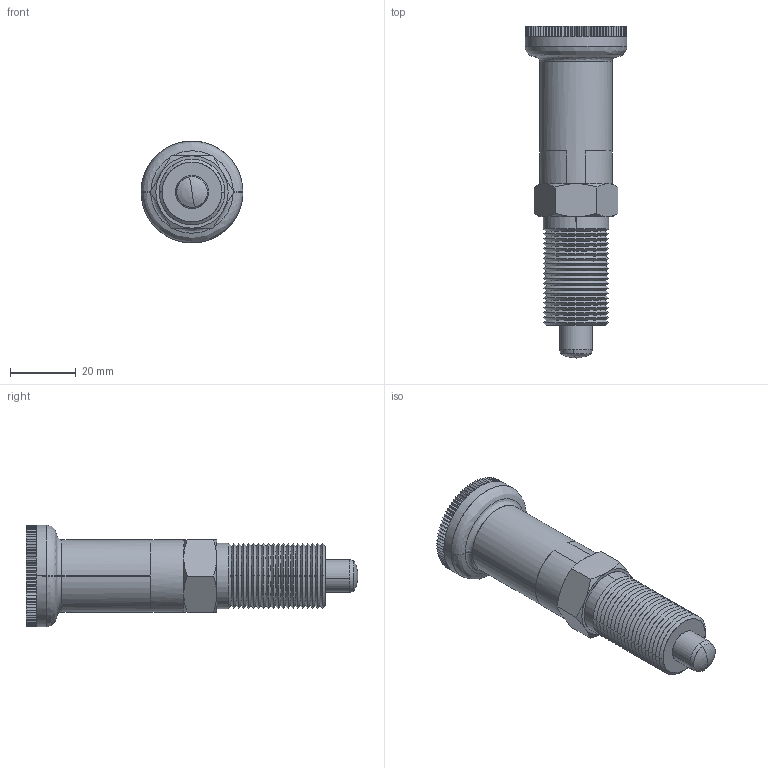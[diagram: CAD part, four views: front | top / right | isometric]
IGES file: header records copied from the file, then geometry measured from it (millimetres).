
Start section: SolidWorks IGES file using analytic representation for surfaces
Global section: file name: C:\Documents and Settings\IANO\My Documents\Wix and Auto CAD Work\CAD Models\Parametric Models\Wix Models\30000\32712_v2\32712_v2_20160414_IGES\32712.W0710.igs; native system: SolidWorks 2009; preprocessor: SolidWorks 2009; author: IANO; date: 160630.185015; units: millimetre
Bounding box: 31 x 101 x 31 mm (x, y, z)
Surface area: 14590.2 mm2 (no closed solid volume)
Topology: 0 solids, 0 shells, 434 faces, 2734 edges, 2732 vertices
Faces by surface type: bspline 314, revolution 120
